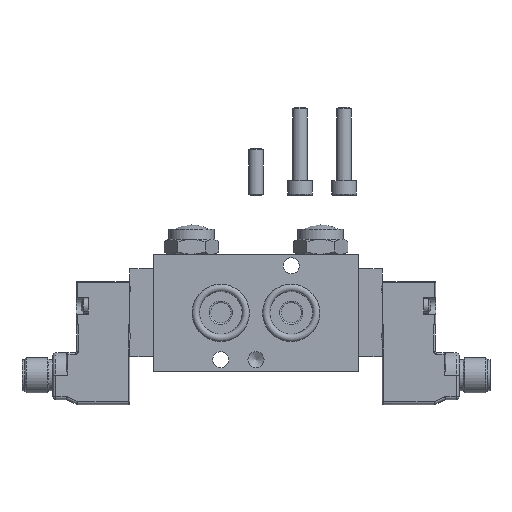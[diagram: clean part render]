
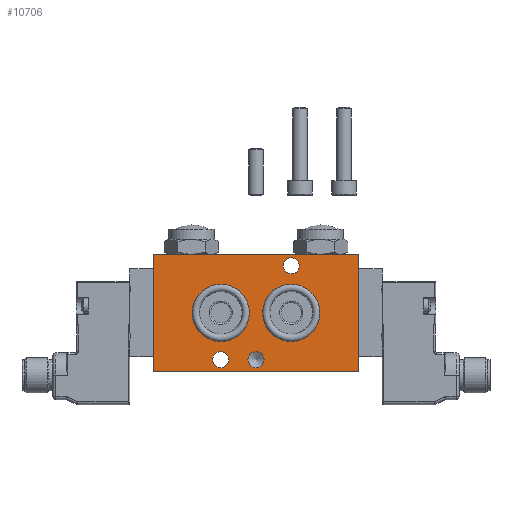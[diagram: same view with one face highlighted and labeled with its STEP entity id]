
A CAD part, front view. The second image highlights one B-rep face of the part: STEP entity #10706.
In plain terms, the highlighted planar face has unit normal (0, -1, 0) as drawn and (0, 0, -1) by its records, which use the part's own axes.
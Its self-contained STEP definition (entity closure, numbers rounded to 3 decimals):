
#315=CIRCLE('',#11209,2.75);
#316=CIRCLE('',#11210,2.75);
#317=CIRCLE('',#11211,9.75);
#318=CIRCLE('',#11212,9.75);
#319=CIRCLE('',#11213,2.75);
#728=ORIENTED_EDGE('',*,*,#2892,.F.);
#729=ORIENTED_EDGE('',*,*,#2893,.F.);
#730=ORIENTED_EDGE('',*,*,#2894,.T.);
#731=ORIENTED_EDGE('',*,*,#2895,.T.);
#732=ORIENTED_EDGE('',*,*,#2896,.F.);
#733=ORIENTED_EDGE('',*,*,#2879,.F.);
#734=ORIENTED_EDGE('',*,*,#2888,.F.);
#735=ORIENTED_EDGE('',*,*,#2871,.F.);
#736=ORIENTED_EDGE('',*,*,#2884,.F.);
#2871=EDGE_CURVE('',#3954,#3955,#4664,.T.);
#2879=EDGE_CURVE('',#3962,#3963,#4672,.T.);
#2884=EDGE_CURVE('',#3963,#3954,#4677,.T.);
#2888=EDGE_CURVE('',#3955,#3962,#4681,.T.);
#2892=EDGE_CURVE('',#3965,#3965,#315,.T.);
#2893=EDGE_CURVE('',#3966,#3966,#316,.F.);
#2894=EDGE_CURVE('',#3967,#3967,#317,.T.);
#2895=EDGE_CURVE('',#3968,#3968,#318,.T.);
#2896=EDGE_CURVE('',#3969,#3969,#319,.F.);
#3954=VERTEX_POINT('',#14510);
#3955=VERTEX_POINT('',#14512);
#3962=VERTEX_POINT('',#14527);
#3963=VERTEX_POINT('',#14529);
#3965=VERTEX_POINT('',#14548);
#3966=VERTEX_POINT('',#14550);
#3967=VERTEX_POINT('',#14552);
#3968=VERTEX_POINT('',#14554);
#3969=VERTEX_POINT('',#14556);
#4664=LINE('',#14511,#5442);
#4672=LINE('',#14528,#5450);
#4677=LINE('',#14536,#5455);
#4681=LINE('',#14541,#5459);
#5442=VECTOR('',#12063,1000.);
#5450=VECTOR('',#12073,1000.);
#5455=VECTOR('',#12080,1000.);
#5459=VECTOR('',#12086,1000.);
#6145=EDGE_LOOP('',(#728));
#6146=EDGE_LOOP('',(#729));
#6147=EDGE_LOOP('',(#730));
#6148=EDGE_LOOP('',(#731));
#6149=EDGE_LOOP('',(#732));
#6150=EDGE_LOOP('',(#733,#734,#735,#736));
#6720=FACE_BOUND('',#6145,.T.);
#6721=FACE_BOUND('',#6146,.T.);
#6722=FACE_BOUND('',#6147,.T.);
#6723=FACE_BOUND('',#6148,.T.);
#6724=FACE_BOUND('',#6149,.T.);
#6725=FACE_BOUND('',#6150,.T.);
#7277=PLANE('',#11208);
#10706=ADVANCED_FACE('',(#6720,#6721,#6722,#6723,#6724,#6725),#7277,.F.);
#11208=AXIS2_PLACEMENT_3D('',#14546,#12094,#12095);
#11209=AXIS2_PLACEMENT_3D('',#14547,#12096,#12097);
#11210=AXIS2_PLACEMENT_3D('',#14549,#12098,#12099);
#11211=AXIS2_PLACEMENT_3D('',#14551,#12100,#12101);
#11212=AXIS2_PLACEMENT_3D('',#14553,#12102,#12103);
#11213=AXIS2_PLACEMENT_3D('',#14555,#12104,#12105);
#12063=DIRECTION('',(1.,0.,0.));
#12073=DIRECTION('',(-1.,0.,0.));
#12080=DIRECTION('',(0.,-1.,0.));
#12086=DIRECTION('',(0.,1.,0.));
#12094=DIRECTION('',(0.,0.,1.));
#12095=DIRECTION('',(1.,0.,0.));
#12096=DIRECTION('',(0.,0.,-1.));
#12097=DIRECTION('',(-1.,0.,0.));
#12098=DIRECTION('',(0.,0.,1.));
#12099=DIRECTION('',(1.,0.,0.));
#12100=DIRECTION('',(0.,0.,1.));
#12101=DIRECTION('',(1.,0.,0.));
#12102=DIRECTION('',(0.,0.,1.));
#12103=DIRECTION('',(1.,0.,0.));
#12104=DIRECTION('',(0.,0.,1.));
#12105=DIRECTION('',(1.,0.,0.));
#14510=CARTESIAN_POINT('',(-35.,0.,-11.));
#14511=CARTESIAN_POINT('',(-35.,0.,-11.));
#14512=CARTESIAN_POINT('',(35.,0.,-11.));
#14527=CARTESIAN_POINT('',(35.,40.,-11.));
#14528=CARTESIAN_POINT('',(35.,40.,-11.));
#14529=CARTESIAN_POINT('',(-35.,40.,-11.));
#14536=CARTESIAN_POINT('',(-35.,40.,-11.));
#14541=CARTESIAN_POINT('',(35.,0.,-11.));
#14546=CARTESIAN_POINT('',(0.,0.,-11.));
#14547=CARTESIAN_POINT('',(0.,36.,-11.));
#14548=CARTESIAN_POINT('',(-2.75,36.,-11.));
#14549=CARTESIAN_POINT('',(12.,4.,-11.));
#14550=CARTESIAN_POINT('',(14.75,4.,-11.));
#14551=CARTESIAN_POINT('',(12.,20.,-11.));
#14552=CARTESIAN_POINT('',(21.75,20.,-11.));
#14553=CARTESIAN_POINT('',(-12.,20.,-11.));
#14554=CARTESIAN_POINT('',(-2.25,20.,-11.));
#14555=CARTESIAN_POINT('',(-12.,36.,-11.));
#14556=CARTESIAN_POINT('',(-9.25,36.,-11.));
